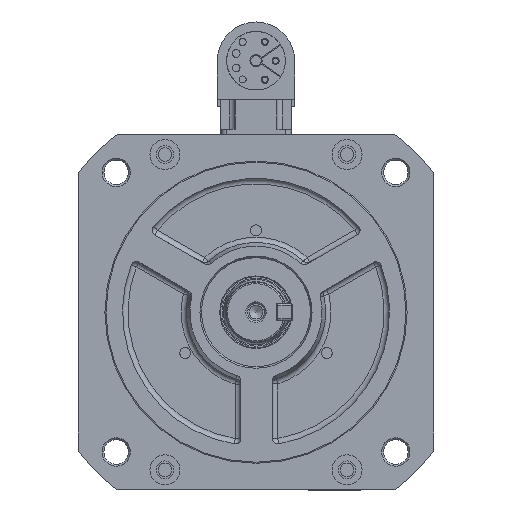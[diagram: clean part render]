
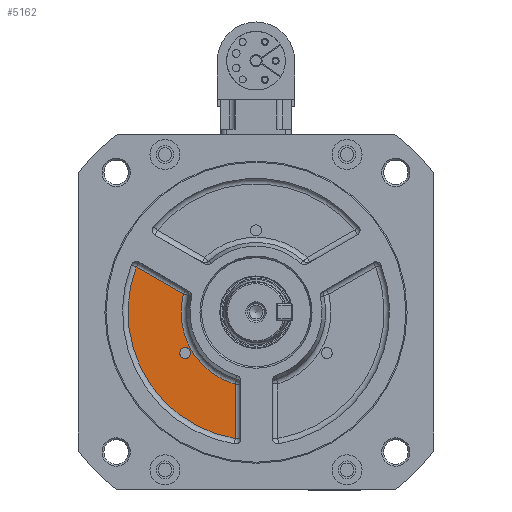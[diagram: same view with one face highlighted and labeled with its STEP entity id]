
A CAD part, left-side view. The second image highlights one B-rep face of the part: STEP entity #5162.
In plain terms, the highlighted planar face has unit normal (-1, 0, 0) as drawn and (0, -1, 0) by its records, which use the part's own axes.
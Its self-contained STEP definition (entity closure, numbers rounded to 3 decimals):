
#5162 = ADVANCED_FACE( '', ( #10641, #10642 ), #10643, .T. );
#10641 = FACE_OUTER_BOUND( '', #19758, .T. );
#10642 = FACE_BOUND( '', #19759, .T. );
#10643 = PLANE( '', #19760 );
#19758 = EDGE_LOOP( '', ( #34416, #34417, #34418, #34419 ) );
#19759 = EDGE_LOOP( '', ( #34420 ) );
#19760 = AXIS2_PLACEMENT_3D( '', #34421, #34422, #34423 );
#34416 = ORIENTED_EDGE( '', *, *, #39453, .T. );
#34417 = ORIENTED_EDGE( '', *, *, #36667, .T. );
#34418 = ORIENTED_EDGE( '', *, *, #39427, .T. );
#34419 = ORIENTED_EDGE( '', *, *, #38146, .T. );
#34420 = ORIENTED_EDGE( '', *, *, #41035, .T. );
#34421 = CARTESIAN_POINT( '', ( 0.069, -28., 0.04 ) );
#34422 = DIRECTION( '', ( 0., -1., 0. ) );
#34423 = DIRECTION( '', ( 0., 0., -1. ) );
#36667 = EDGE_CURVE( '', #43164, #43162, #43165, .T. );
#38146 = EDGE_CURVE( '', #45694, #45699, #45701, .T. );
#39427 = EDGE_CURVE( '', #43162, #45694, #47681, .T. );
#39453 = EDGE_CURVE( '', #45699, #43164, #47716, .T. );
#41035 = EDGE_CURVE( '', #49863, #49863, #49864, .T. );
#43162 = VERTEX_POINT( '', #52871 );
#43164 = VERTEX_POINT( '', #52873 );
#43165 = CIRCLE( '', #52874, 47. );
#45694 = VERTEX_POINT( '', #57902 );
#45699 = VERTEX_POINT( '', #57907 );
#45701 = CIRCLE( '', #57909, 27.5 );
#47681 = LINE( '', #61618, #61619 );
#47716 = LINE( '', #61673, #61674 );
#49863 = VERTEX_POINT( '', #66219 );
#49864 = CIRCLE( '', #66220, 2. );
#52871 = CARTESIAN_POINT( '', ( -7.596, -28., -46.331 ) );
#52873 = CARTESIAN_POINT( '', ( -43.922, -28., 16.587 ) );
#52874 = AXIS2_PLACEMENT_3D( '', #69765, #69766, #69767 );
#57902 = CARTESIAN_POINT( '', ( -7.596, -28., -26.43 ) );
#57907 = CARTESIAN_POINT( '', ( -26.687, -28., 6.637 ) );
#57909 = AXIS2_PLACEMENT_3D( '', #72009, #72010, #72011 );
#61618 = CARTESIAN_POINT( '', ( -7.596, -28., 0.04 ) );
#61619 = VECTOR( '', #73824, 1000. );
#61673 = CARTESIAN_POINT( '', ( -3.763, -28., -6.599 ) );
#61674 = VECTOR( '', #73868, 1000. );
#66219 = CARTESIAN_POINT( '', ( -24.249, -28., -14. ) );
#66220 = AXIS2_PLACEMENT_3D( '', #75806, #75807, #75808 );
#69765 = CARTESIAN_POINT( '', ( 0.069, -28., 0.04 ) );
#69766 = DIRECTION( '', ( 0., -1., 0. ) );
#69767 = DIRECTION( '', ( 0., 0., -1. ) );
#72009 = CARTESIAN_POINT( '', ( 0., -28., 0. ) );
#72010 = DIRECTION( '', ( 0., 1., 0. ) );
#72011 = DIRECTION( '', ( 0., 0., -1. ) );
#73824 = DIRECTION( '', ( 0., 0., 1. ) );
#73868 = DIRECTION( '', ( -0.866, 0., 0.5 ) );
#75806 = CARTESIAN_POINT( '', ( -25.981, -28., -15. ) );
#75807 = DIRECTION( '', ( 0., 1., 0. ) );
#75808 = DIRECTION( '', ( 0.866, 0., 0.5 ) );
